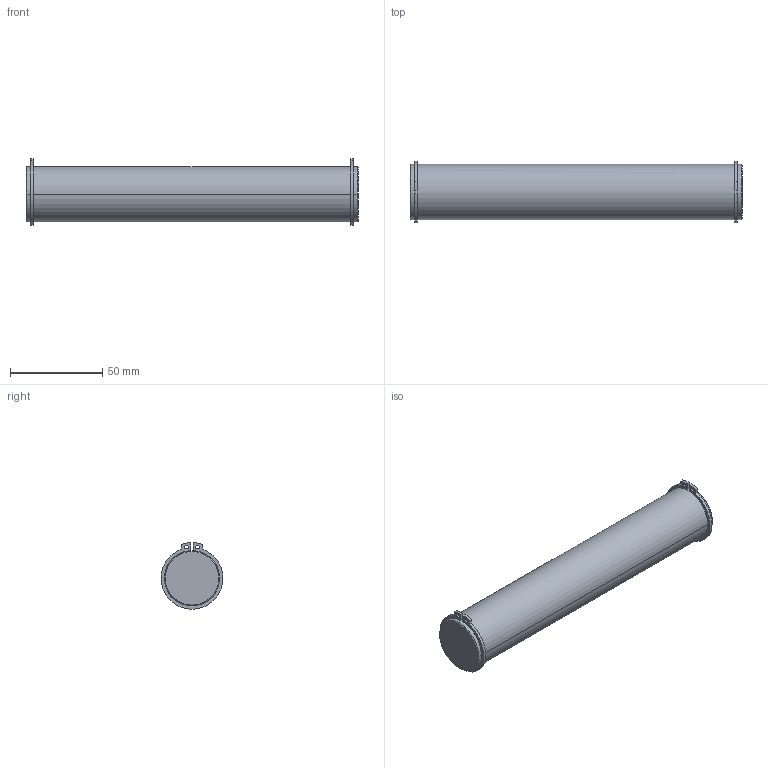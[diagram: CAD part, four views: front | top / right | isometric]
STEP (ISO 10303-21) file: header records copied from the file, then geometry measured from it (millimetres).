
FILE_DESCRIPTION((''),'2;1');
FILE_NAME('5237000092','2015-10-14T',('vol1hc'),(''),'PRO/ENGINEER BY PARAMETRIC TECHNOLOGY CORPORATION, 2012421','PRO/ENGINEER BY PARAMETRIC TECHNOLOGY CORPORATION, 2012421','');
FILE_SCHEMA(('CONFIG_CONTROL_DESIGN','SHAPE_APPEARANCE_LAYERS_GROUPS'));
Length unit declared in the file: millimetre
Products named in the file (1): 5237000092
Bounding box: 180 x 33.6 x 36.09 mm (x, y, z)
Volume: 127800.3 mm3; surface area: 19221 mm2
Topology: 1 solids, 1 shells, 36 faces, 98 edges, 64 vertices
Faces by surface type: cylinder 18, plane 14, cone 4
Entity records: 1225 total; most frequent: DIRECTION 218, CARTESIAN_POINT 198, ORIENTED_EDGE 196, EDGE_CURVE 98, AXIS2_PLACEMENT_3D 84, VERTEX_POINT 64, VECTOR 50, LINE 50
